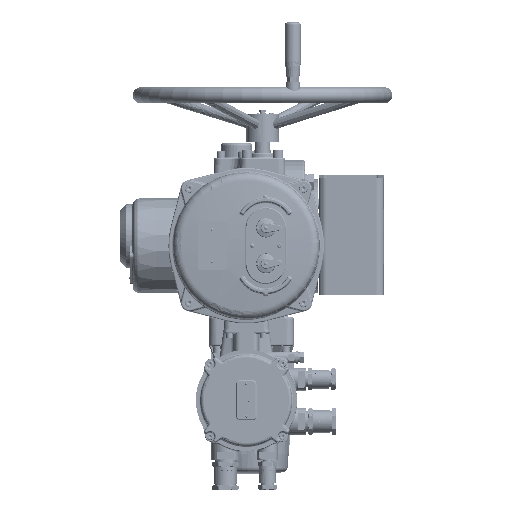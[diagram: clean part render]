
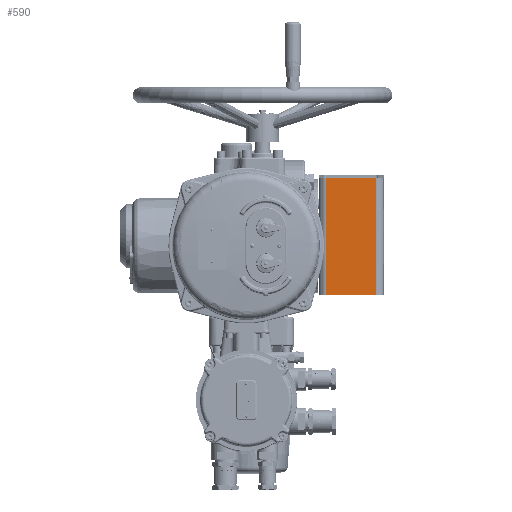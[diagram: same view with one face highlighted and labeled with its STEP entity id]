
A CAD part, left-side view. The second image highlights one B-rep face of the part: STEP entity #590.
In plain terms, the highlighted planar face has unit normal (-1, 0, -0.029).
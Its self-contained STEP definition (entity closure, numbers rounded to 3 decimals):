
#590=ADVANCED_FACE('',(#4836),#4838,.T.);
#4836=FACE_BOUND('',#4837,.T.);
#4837=EDGE_LOOP('',(#103102,#103103,#103104,#103105));
#4838=PLANE('',#4839);
#4839=AXIS2_PLACEMENT_3D('',#4840,#4841,#4842);
#4840=CARTESIAN_POINT('',(-90.04,-318.06,-78.361));
#4841=DIRECTION('',(-1.,0.,-0.029));
#4842=DIRECTION('',(-0.029,0.,1.));
#103102=ORIENTED_EDGE('',*,*,#243573,.F.);
#103103=ORIENTED_EDGE('',*,*,#243488,.F.);
#103104=ORIENTED_EDGE('',*,*,#243627,.T.);
#103105=ORIENTED_EDGE('',*,*,#243500,.T.);
#243488=EDGE_CURVE('',#295611,#295601,#295613,.T.);
#243500=EDGE_CURVE('',#295632,#295630,#295633,.T.);
#243573=EDGE_CURVE('',#295601,#295630,#295750,.T.);
#243627=EDGE_CURVE('',#295611,#295632,#295846,.T.);
#295601=VERTEX_POINT('',#323900);
#295611=VERTEX_POINT('',#323923);
#295613=LINE('',#323928,#323929);
#295630=VERTEX_POINT('',#324010);
#295632=VERTEX_POINT('',#324015);
#295633=LINE('',#324016,#324017);
#295750=LINE('',#325164,#325165);
#295846=LINE('',#325909,#325910);
#323900=CARTESIAN_POINT('',(-90.04,-230.06,-78.361));
#323923=CARTESIAN_POINT('',(-90.04,-306.06,-78.361));
#323928=CARTESIAN_POINT('',(-90.04,-306.06,-78.361));
#323929=VECTOR('',#323930,1.);
#323930=DIRECTION('',(0.,1.,0.));
#324010=CARTESIAN_POINT('',(-95.276,-230.06,101.563));
#324015=CARTESIAN_POINT('',(-95.276,-306.06,101.563));
#324016=CARTESIAN_POINT('',(-95.276,-306.06,101.563));
#324017=VECTOR('',#324018,1.);
#324018=DIRECTION('',(0.,1.,0.));
#325164=CARTESIAN_POINT('',(-90.04,-230.06,-78.361));
#325165=VECTOR('',#325166,1.);
#325166=DIRECTION('',(-0.029,0.,1.));
#325909=CARTESIAN_POINT('',(-90.04,-306.06,-78.361));
#325910=VECTOR('',#325911,1.);
#325911=DIRECTION('',(-0.029,0.,1.));
